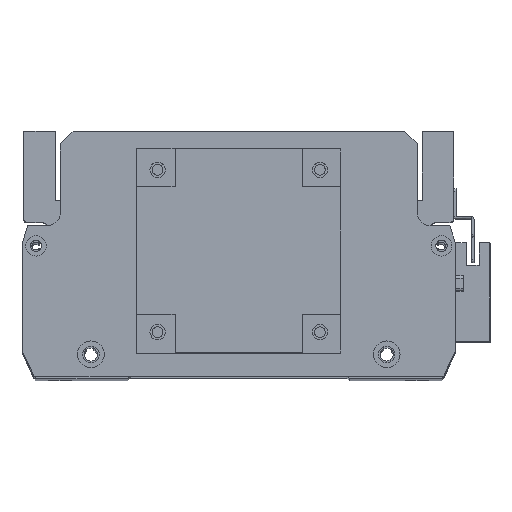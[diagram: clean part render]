
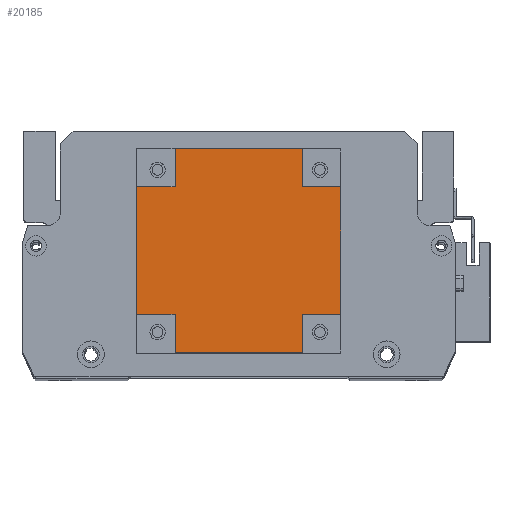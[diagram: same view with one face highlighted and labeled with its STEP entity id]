
A CAD part, top view. The second image highlights one B-rep face of the part: STEP entity #20185.
In plain terms, the highlighted planar face has unit normal (0, 0, 1).
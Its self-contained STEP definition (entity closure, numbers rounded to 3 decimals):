
#349 = LINE ( 'NONE', #16063, #9969 ) ;
#690 = ORIENTED_EDGE ( 'NONE', *, *, #20181, .F. ) ;
#728 = VERTEX_POINT ( 'NONE', #12640 ) ;
#784 = CARTESIAN_POINT ( 'NONE',  ( 65., 65., 101.5 ) ) ;
#880 = VERTEX_POINT ( 'NONE', #22644 ) ;
#1158 = EDGE_CURVE ( 'NONE', #9496, #20422, #15398, .T. ) ;
#1404 = CARTESIAN_POINT ( 'NONE',  ( 15., 0., 101.5 ) ) ;
#1407 = CARTESIAN_POINT ( 'NONE',  ( 0., 65., 101.5 ) ) ;
#1748 = DIRECTION ( 'NONE',  ( -1., 0., 0. ) ) ;
#1799 = ORIENTED_EDGE ( 'NONE', *, *, #13056, .F. ) ;
#2022 = DIRECTION ( 'NONE',  ( 0., -1., 0. ) ) ;
#2028 = CARTESIAN_POINT ( 'NONE',  ( 0., 0., 101.5 ) ) ;
#2118 = VECTOR ( 'NONE', #18049, 1000. ) ;
#2405 = CARTESIAN_POINT ( 'NONE',  ( 15., 80., 101.5 ) ) ;
#2511 = CARTESIAN_POINT ( 'NONE',  ( 65., 80., 101.5 ) ) ;
#2562 = EDGE_CURVE ( 'NONE', #880, #12095, #14128, .T. ) ;
#2720 = CARTESIAN_POINT ( 'NONE',  ( 15., 80., 101.5 ) ) ;
#3846 = EDGE_CURVE ( 'NONE', #24387, #728, #20896, .T. ) ;
#4230 = LINE ( 'NONE', #17469, #13850 ) ;
#4304 = ORIENTED_EDGE ( 'NONE', *, *, #3846, .F. ) ;
#4336 = PLANE ( 'NONE',  #7539 ) ;
#4407 = CARTESIAN_POINT ( 'NONE',  ( 65., 80., 101.5 ) ) ;
#4601 = ORIENTED_EDGE ( 'NONE', *, *, #7091, .T. ) ;
#4760 = LINE ( 'NONE', #5616, #19412 ) ;
#4971 = VERTEX_POINT ( 'NONE', #7595 ) ;
#5271 = VECTOR ( 'NONE', #2022, 1000. ) ;
#5616 = CARTESIAN_POINT ( 'NONE',  ( 80., 15., 101.5 ) ) ;
#5809 = ORIENTED_EDGE ( 'NONE', *, *, #1158, .F. ) ;
#5973 = CARTESIAN_POINT ( 'NONE',  ( 0., 65., 101.5 ) ) ;
#5982 = DIRECTION ( 'NONE',  ( -1., 0., 0. ) ) ;
#6245 = DIRECTION ( 'NONE',  ( 0., 0., -1. ) ) ;
#7091 = EDGE_CURVE ( 'NONE', #11500, #16594, #4230, .T. ) ;
#7209 = LINE ( 'NONE', #784, #2118 ) ;
#7280 = EDGE_CURVE ( 'NONE', #9496, #10914, #349, .T. ) ;
#7539 = AXIS2_PLACEMENT_3D ( 'NONE', #8117, #6245, #19641 ) ;
#7595 = CARTESIAN_POINT ( 'NONE',  ( 65., 15., 101.5 ) ) ;
#7922 = DIRECTION ( 'NONE',  ( 1., 0., 0. ) ) ;
#8117 = CARTESIAN_POINT ( 'NONE',  ( 0., 0., 101.5 ) ) ;
#8220 = EDGE_CURVE ( 'NONE', #8407, #12095, #7209, .T. ) ;
#8343 = DIRECTION ( 'NONE',  ( 0., 1., 0. ) ) ;
#8407 = VERTEX_POINT ( 'NONE', #18614 ) ;
#8430 = CARTESIAN_POINT ( 'NONE',  ( 80., 65., 101.5 ) ) ;
#9025 = VECTOR ( 'NONE', #16863, 1000. ) ;
#9190 = EDGE_CURVE ( 'NONE', #11500, #8407, #15575, .T. ) ;
#9496 = VERTEX_POINT ( 'NONE', #1404 ) ;
#9534 = VECTOR ( 'NONE', #22113, 1000. ) ;
#9545 = VECTOR ( 'NONE', #7922, 1000. ) ;
#9882 = CARTESIAN_POINT ( 'NONE',  ( 65., 0., 101.5 ) ) ;
#9945 = EDGE_CURVE ( 'NONE', #20422, #24454, #24158, .T. ) ;
#9969 = VECTOR ( 'NONE', #21777, 1000. ) ;
#10914 = VERTEX_POINT ( 'NONE', #9882 ) ;
#11500 = VERTEX_POINT ( 'NONE', #4407 ) ;
#12095 = VERTEX_POINT ( 'NONE', #8430 ) ;
#12640 = CARTESIAN_POINT ( 'NONE',  ( 15., 65., 101.5 ) ) ;
#12868 = VECTOR ( 'NONE', #23017, 1000. ) ;
#12942 = ORIENTED_EDGE ( 'NONE', *, *, #9190, .F. ) ;
#13044 = ORIENTED_EDGE ( 'NONE', *, *, #9945, .F. ) ;
#13056 = EDGE_CURVE ( 'NONE', #880, #4971, #4760, .T. ) ;
#13169 = CARTESIAN_POINT ( 'NONE',  ( 0., 15., 101.5 ) ) ;
#13850 = VECTOR ( 'NONE', #5982, 1000. ) ;
#13976 = VECTOR ( 'NONE', #15828, 1000. ) ;
#14015 = DIRECTION ( 'NONE',  ( 0., -1., 0. ) ) ;
#14128 = LINE ( 'NONE', #24410, #9025 ) ;
#14204 = VECTOR ( 'NONE', #8343, 1000. ) ;
#14334 = EDGE_CURVE ( 'NONE', #4971, #10914, #22318, .T. ) ;
#14581 = CARTESIAN_POINT ( 'NONE',  ( 0., 15., 101.5 ) ) ;
#15398 = LINE ( 'NONE', #17880, #14204 ) ;
#15575 = LINE ( 'NONE', #2511, #20023 ) ;
#15624 = ORIENTED_EDGE ( 'NONE', *, *, #2562, .T. ) ;
#15828 = DIRECTION ( 'NONE',  ( 0., 1., 0. ) ) ;
#16063 = CARTESIAN_POINT ( 'NONE',  ( 0., 0., 101.5 ) ) ;
#16594 = VERTEX_POINT ( 'NONE', #2720 ) ;
#16863 = DIRECTION ( 'NONE',  ( 0., 1., 0. ) ) ;
#16920 = ORIENTED_EDGE ( 'NONE', *, *, #18445, .T. ) ;
#17469 = CARTESIAN_POINT ( 'NONE',  ( 0., 80., 101.5 ) ) ;
#17835 = FACE_OUTER_BOUND ( 'NONE', #22725, .T. ) ;
#17880 = CARTESIAN_POINT ( 'NONE',  ( 15., 0., 101.5 ) ) ;
#18049 = DIRECTION ( 'NONE',  ( 1., 0., 0. ) ) ;
#18445 = EDGE_CURVE ( 'NONE', #24387, #24454, #22389, .T. ) ;
#18614 = CARTESIAN_POINT ( 'NONE',  ( 65., 65., 101.5 ) ) ;
#19412 = VECTOR ( 'NONE', #1748, 1000. ) ;
#19449 = ORIENTED_EDGE ( 'NONE', *, *, #14334, .F. ) ;
#19641 = DIRECTION ( 'NONE',  ( -1., 0., 0. ) ) ;
#20023 = VECTOR ( 'NONE', #14015, 1000. ) ;
#20181 = EDGE_CURVE ( 'NONE', #728, #16594, #24082, .T. ) ;
#20185 = ADVANCED_FACE ( 'NONE', ( #17835 ), #4336, .F. ) ;
#20422 = VERTEX_POINT ( 'NONE', #24128 ) ;
#20896 = LINE ( 'NONE', #5973, #9545 ) ;
#20931 = ORIENTED_EDGE ( 'NONE', *, *, #7280, .T. ) ;
#21081 = CARTESIAN_POINT ( 'NONE',  ( 65., 0., 101.5 ) ) ;
#21777 = DIRECTION ( 'NONE',  ( 1., 0., 0. ) ) ;
#21863 = ORIENTED_EDGE ( 'NONE', *, *, #8220, .F. ) ;
#22113 = DIRECTION ( 'NONE',  ( -1., 0., 0. ) ) ;
#22318 = LINE ( 'NONE', #21081, #5271 ) ;
#22389 = LINE ( 'NONE', #2028, #12868 ) ;
#22644 = CARTESIAN_POINT ( 'NONE',  ( 80., 15., 101.5 ) ) ;
#22725 = EDGE_LOOP ( 'NONE', ( #4601, #690, #4304, #16920, #13044, #5809, #20931, #19449, #1799, #15624, #21863, #12942 ) ) ;
#23017 = DIRECTION ( 'NONE',  ( 0., -1., 0. ) ) ;
#24082 = LINE ( 'NONE', #2405, #13976 ) ;
#24128 = CARTESIAN_POINT ( 'NONE',  ( 15., 15., 101.5 ) ) ;
#24158 = LINE ( 'NONE', #14581, #9534 ) ;
#24387 = VERTEX_POINT ( 'NONE', #1407 ) ;
#24410 = CARTESIAN_POINT ( 'NONE',  ( 80., 0., 101.5 ) ) ;
#24454 = VERTEX_POINT ( 'NONE', #13169 ) ;
